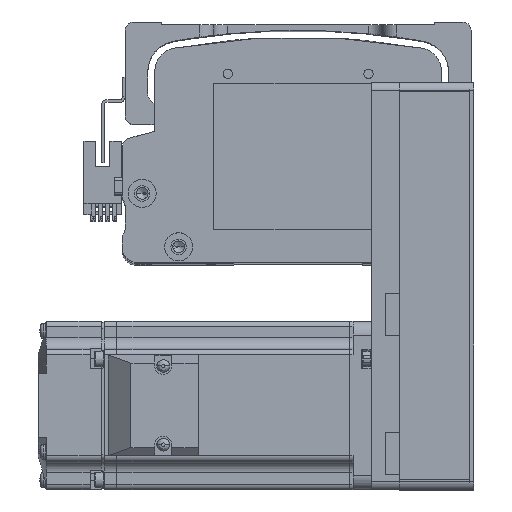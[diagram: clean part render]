
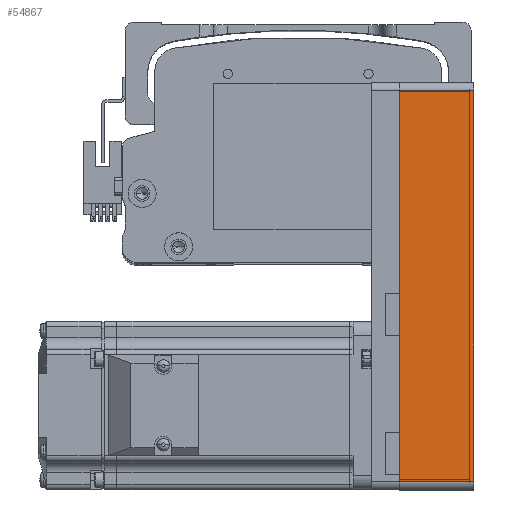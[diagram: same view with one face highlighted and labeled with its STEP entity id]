
A CAD part, top view. The second image highlights one B-rep face of the part: STEP entity #54867.
In plain terms, the highlighted planar face has unit normal (0, 0, 1) as drawn and (0, -1, 0) by its records, which use the part's own axes.
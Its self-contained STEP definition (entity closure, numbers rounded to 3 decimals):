
#358 = DIRECTION ( 'NONE',  ( 1., 0., 0. ) ) ;
#1316 = VERTEX_POINT ( 'NONE', #58125 ) ;
#3520 = VECTOR ( 'NONE', #19279, 1000. ) ;
#4136 = DIRECTION ( 'NONE',  ( -1., 0., 0. ) ) ;
#5402 = EDGE_LOOP ( 'NONE', ( #62255, #19413, #9863, #14969 ) ) ;
#5447 = LINE ( 'NONE', #13027, #3520 ) ;
#5554 = CARTESIAN_POINT ( 'NONE',  ( 72.5, -30., 26.5 ) ) ;
#5944 = LINE ( 'NONE', #13080, #69814 ) ;
#7034 = VECTOR ( 'NONE', #74901, 1000. ) ;
#9863 = ORIENTED_EDGE ( 'NONE', *, *, #40474, .F. ) ;
#13027 = CARTESIAN_POINT ( 'NONE',  ( 69.5, -30., 26.5 ) ) ;
#13080 = CARTESIAN_POINT ( 'NONE',  ( 72.5, -30., 0. ) ) ;
#14969 = ORIENTED_EDGE ( 'NONE', *, *, #75362, .T. ) ;
#16259 = AXIS2_PLACEMENT_3D ( 'NONE', #78129, #41168, #4136 ) ;
#19279 = DIRECTION ( 'NONE',  ( 0., 0., 1. ) ) ;
#19302 = VERTEX_POINT ( 'NONE', #53972 ) ;
#19413 = ORIENTED_EDGE ( 'NONE', *, *, #32810, .T. ) ;
#22234 = CARTESIAN_POINT ( 'NONE',  ( -69.5, -30., 0. ) ) ;
#24341 = VERTEX_POINT ( 'NONE', #70576 ) ;
#25418 = VERTEX_POINT ( 'NONE', #22234 ) ;
#28504 = PLANE ( 'NONE',  #16259 ) ;
#28925 = VECTOR ( 'NONE', #73152, 1000. ) ;
#32810 = EDGE_CURVE ( 'NONE', #1316, #24341, #5447, .T. ) ;
#40474 = EDGE_CURVE ( 'NONE', #19302, #24341, #78160, .T. ) ;
#41168 = DIRECTION ( 'NONE',  ( 0., 1., 0. ) ) ;
#50647 = EDGE_CURVE ( 'NONE', #25418, #1316, #5944, .T. ) ;
#53972 = CARTESIAN_POINT ( 'NONE',  ( -69.5, -30., 26.5 ) ) ;
#54464 = LINE ( 'NONE', #68725, #7034 ) ;
#54867 = ADVANCED_FACE ( 'NONE', ( #66110 ), #28504, .F. ) ;
#58125 = CARTESIAN_POINT ( 'NONE',  ( 69.5, -30., 0. ) ) ;
#62255 = ORIENTED_EDGE ( 'NONE', *, *, #50647, .T. ) ;
#66110 = FACE_OUTER_BOUND ( 'NONE', #5402, .T. ) ;
#68725 = CARTESIAN_POINT ( 'NONE',  ( -69.5, -30., 26.5 ) ) ;
#69814 = VECTOR ( 'NONE', #358, 1000. ) ;
#70576 = CARTESIAN_POINT ( 'NONE',  ( 69.5, -30., 26.5 ) ) ;
#73152 = DIRECTION ( 'NONE',  ( 1., 0., 0. ) ) ;
#74901 = DIRECTION ( 'NONE',  ( 0., 0., -1. ) ) ;
#75362 = EDGE_CURVE ( 'NONE', #19302, #25418, #54464, .T. ) ;
#78129 = CARTESIAN_POINT ( 'NONE',  ( 72.5, -30., 26.5 ) ) ;
#78160 = LINE ( 'NONE', #5554, #28925 ) ;
